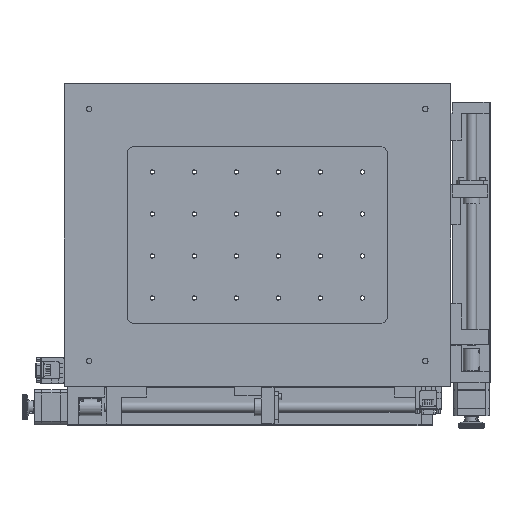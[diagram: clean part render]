
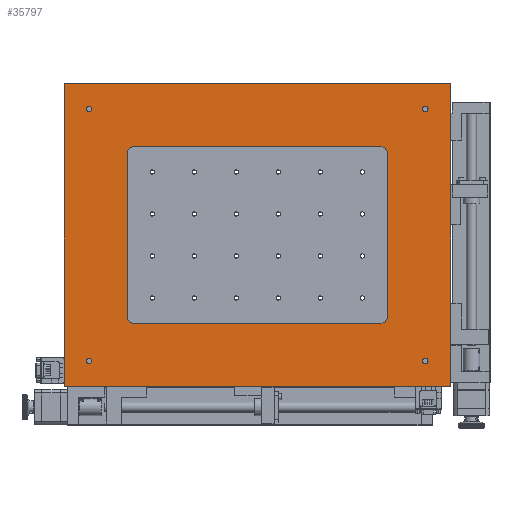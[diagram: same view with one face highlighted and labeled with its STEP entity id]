
A CAD part, front view. The second image highlights one B-rep face of the part: STEP entity #35797.
In plain terms, the highlighted planar face has unit normal (0, -1, 0).
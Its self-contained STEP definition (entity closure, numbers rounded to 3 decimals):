
#331 = VERTEX_POINT ( 'NONE', #23838 ) ;
#337 = VERTEX_POINT ( 'NONE', #23840 ) ;
#342 = VERTEX_POINT ( 'NONE', #23850 ) ;
#345 = VERTEX_POINT ( 'NONE', #23853 ) ;
#351 = VERTEX_POINT ( 'NONE', #23859 ) ;
#358 = VERTEX_POINT ( 'NONE', #23866 ) ;
#364 = VERTEX_POINT ( 'NONE', #23872 ) ;
#365 = VERTEX_POINT ( 'NONE', #23873 ) ;
#366 = VERTEX_POINT ( 'NONE', #23874 ) ;
#367 = VERTEX_POINT ( 'NONE', #23875 ) ;
#368 = VERTEX_POINT ( 'NONE', #23876 ) ;
#371 = VERTEX_POINT ( 'NONE', #23879 ) ;
#663 = AXIS2_PLACEMENT_3D ( 'NONE', #15046, #15047, #15049 ) ;
#672 = AXIS2_PLACEMENT_3D ( 'NONE', #15146, #15148, #15150 ) ;
#1334 = AXIS2_PLACEMENT_3D ( 'NONE', #35894, #35879, #35897 ) ;
#1398 = AXIS2_PLACEMENT_3D ( 'NONE', #36160, #36161, #36162 ) ;
#1400 = AXIS2_PLACEMENT_3D ( 'NONE', #36168, #36169, #36170 ) ;
#1401 = AXIS2_PLACEMENT_3D ( 'NONE', #36172, #36173, #36174 ) ;
#1403 = AXIS2_PLACEMENT_3D ( 'NONE', #36180, #36181, #36182 ) ;
#1405 = AXIS2_PLACEMENT_3D ( 'NONE', #36186, #36187, #36188 ) ;
#1407 = AXIS2_PLACEMENT_3D ( 'NONE', #36193, #36194, #36195 ) ;
#13535 = LINE ( 'NONE', #14958, #13551 ) ;
#13540 = LINE ( 'NONE', #14915, #13543 ) ;
#13543 = VECTOR ( 'NONE', #14917, 1000. ) ;
#13551 = VECTOR ( 'NONE', #14934, 1000. ) ;
#13562 = LINE ( 'NONE', #14982, #13565 ) ;
#13565 = VECTOR ( 'NONE', #14986, 1000. ) ;
#13573 = LINE ( 'NONE', #15013, #13576 ) ;
#13576 = VECTOR ( 'NONE', #15015, 1000. ) ;
#13582 = CIRCLE ( 'NONE', #663, 8. ) ;
#13608 = CIRCLE ( 'NONE', #672, 8. ) ;
#13613 = LINE ( 'NONE', #15157, #13616 ) ;
#13616 = VECTOR ( 'NONE', #15160, 1000. ) ;
#14915 = CARTESIAN_POINT ( 'NONE',  ( -174.203, -27.717, 180. ) ) ;
#14917 = DIRECTION ( 'NONE',  ( 1., 0., 0. ) ) ;
#14934 = DIRECTION ( 'NONE',  ( 0., 0., -1. ) ) ;
#14958 = CARTESIAN_POINT ( 'NONE',  ( 325.797, -27.717, 180. ) ) ;
#14982 = CARTESIAN_POINT ( 'NONE',  ( -134.203, -27.717, -180. ) ) ;
#14986 = DIRECTION ( 'NONE',  ( 0., 0., -1. ) ) ;
#15013 = CARTESIAN_POINT ( 'NONE',  ( -174.203, -27.717, -180. ) ) ;
#15015 = DIRECTION ( 'NONE',  ( 1., 0., 0. ) ) ;
#15046 = CARTESIAN_POINT ( 'NONE',  ( -51.203, -27.717, 97. ) ) ;
#15047 = DIRECTION ( 'NONE',  ( 0., -1., 0. ) ) ;
#15049 = DIRECTION ( 'NONE',  ( 0., 0., 1. ) ) ;
#15146 = CARTESIAN_POINT ( 'NONE',  ( 242.797, -27.717, 97. ) ) ;
#15148 = DIRECTION ( 'NONE',  ( 0., -1., 0. ) ) ;
#15150 = DIRECTION ( 'NONE',  ( 0., 0., 1. ) ) ;
#15157 = CARTESIAN_POINT ( 'NONE',  ( 250.797, -27.717, 97. ) ) ;
#15160 = DIRECTION ( 'NONE',  ( 0., 0., 1. ) ) ;
#23838 = CARTESIAN_POINT ( 'NONE',  ( 325.797, -27.717, -180. ) ) ;
#23840 = CARTESIAN_POINT ( 'NONE',  ( 325.797, -27.717, 180. ) ) ;
#23850 = CARTESIAN_POINT ( 'NONE',  ( -134.203, -27.717, 180. ) ) ;
#23853 = CARTESIAN_POINT ( 'NONE',  ( -59.203, -27.717, 97. ) ) ;
#23859 = CARTESIAN_POINT ( 'NONE',  ( -134.203, -27.717, -180. ) ) ;
#23866 = CARTESIAN_POINT ( 'NONE',  ( -51.203, -27.717, 105. ) ) ;
#23872 = CARTESIAN_POINT ( 'NONE',  ( 242.797, -27.717, 105. ) ) ;
#23873 = CARTESIAN_POINT ( 'NONE',  ( -59.203, -27.717, -97. ) ) ;
#23874 = CARTESIAN_POINT ( 'NONE',  ( 242.797, -27.717, -105. ) ) ;
#23875 = CARTESIAN_POINT ( 'NONE',  ( -51.203, -27.717, -105. ) ) ;
#23876 = CARTESIAN_POINT ( 'NONE',  ( 250.797, -27.717, 97. ) ) ;
#23879 = CARTESIAN_POINT ( 'NONE',  ( 250.797, -27.717, -97. ) ) ;
#25315 = ORIENTED_EDGE ( 'NONE', *, *, #31473, .F. ) ;
#25316 = ORIENTED_EDGE ( 'NONE', *, *, #31499, .T. ) ;
#25317 = ORIENTED_EDGE ( 'NONE', *, *, #31486, .T. ) ;
#25318 = ORIENTED_EDGE ( 'NONE', *, *, #31458, .F. ) ;
#25319 = ORIENTED_EDGE ( 'NONE', *, *, #40595, .F. ) ;
#25320 = ORIENTED_EDGE ( 'NONE', *, *, #40591, .F. ) ;
#25321 = ORIENTED_EDGE ( 'NONE', *, *, #40586, .F. ) ;
#25322 = ORIENTED_EDGE ( 'NONE', *, *, #31553, .F. ) ;
#25323 = ORIENTED_EDGE ( 'NONE', *, *, #31547, .F. ) ;
#25324 = ORIENTED_EDGE ( 'NONE', *, *, #40618, .F. ) ;
#25325 = ORIENTED_EDGE ( 'NONE', *, *, #31512, .F. ) ;
#25326 = ORIENTED_EDGE ( 'NONE', *, *, #40599, .F. ) ;
#25327 = ORIENTED_EDGE ( 'NONE', *, *, #40601, .T. ) ;
#25328 = ORIENTED_EDGE ( 'NONE', *, *, #40606, .T. ) ;
#25329 = ORIENTED_EDGE ( 'NONE', *, *, #40610, .T. ) ;
#25330 = ORIENTED_EDGE ( 'NONE', *, *, #40614, .T. ) ;
#25488 = FACE_BOUND ( 'NONE', #50570, .T. ) ;
#25491 = FACE_BOUND ( 'NONE', #50568, .T. ) ;
#25492 = FACE_BOUND ( 'NONE', #50572, .T. ) ;
#25493 = FACE_BOUND ( 'NONE', #50571, .T. ) ;
#25494 = FACE_BOUND ( 'NONE', #50567, .T. ) ;
#25495 = FACE_OUTER_BOUND ( 'NONE', #50575, .T. ) ;
#25590 = CIRCLE ( 'NONE', #1400, 8. ) ;
#25592 = LINE ( 'NONE', #36157, #25599 ) ;
#25595 = CIRCLE ( 'NONE', #1398, 8. ) ;
#25599 = VECTOR ( 'NONE', #36150, 1000. ) ;
#25602 = LINE ( 'NONE', #36166, #25606 ) ;
#25603 = CIRCLE ( 'NONE', #1401, 3.25 ) ;
#25605 = CIRCLE ( 'NONE', #1405, 3.25 ) ;
#25606 = VECTOR ( 'NONE', #36171, 1000. ) ;
#25609 = CIRCLE ( 'NONE', #1403, 3.25 ) ;
#25611 = CIRCLE ( 'NONE', #1407, 3.25 ) ;
#25614 = VECTOR ( 'NONE', #36200, 1000. ) ;
#25616 = LINE ( 'NONE', #36179, #25614 ) ;
#31458 = EDGE_CURVE ( 'NONE', #342, #337, #13540, .T. ) ;
#31473 = EDGE_CURVE ( 'NONE', #337, #331, #13535, .T. ) ;
#31486 = EDGE_CURVE ( 'NONE', #342, #351, #13562, .T. ) ;
#31499 = EDGE_CURVE ( 'NONE', #351, #331, #13573, .T. ) ;
#31512 = EDGE_CURVE ( 'NONE', #358, #345, #13582, .T. ) ;
#31547 = EDGE_CURVE ( 'NONE', #368, #364, #13608, .T. ) ;
#31553 = EDGE_CURVE ( 'NONE', #371, #368, #13613, .T. ) ;
#35797 = ADVANCED_FACE ( 'NONE', ( #25491, #25494, #25492, #25493, #25488, #25495 ), #35892, .F. ) ;
#35879 = DIRECTION ( 'NONE',  ( 0., 1., 0. ) ) ;
#35892 = PLANE ( 'NONE',  #1334 ) ;
#35894 = CARTESIAN_POINT ( 'NONE',  ( -174.203, -27.717, 180. ) ) ;
#35897 = DIRECTION ( 'NONE',  ( 0., 0., 1. ) ) ;
#36150 = DIRECTION ( 'NONE',  ( 1., 0., 0. ) ) ;
#36157 = CARTESIAN_POINT ( 'NONE',  ( 242.797, -27.717, -105. ) ) ;
#36160 = CARTESIAN_POINT ( 'NONE',  ( 242.797, -27.717, -97. ) ) ;
#36161 = DIRECTION ( 'NONE',  ( 0., -1., 0. ) ) ;
#36162 = DIRECTION ( 'NONE',  ( 0., 0., 1. ) ) ;
#36166 = CARTESIAN_POINT ( 'NONE',  ( -59.203, -27.717, 97. ) ) ;
#36168 = CARTESIAN_POINT ( 'NONE',  ( -51.203, -27.717, -97. ) ) ;
#36169 = DIRECTION ( 'NONE',  ( 0., -1., 0. ) ) ;
#36170 = DIRECTION ( 'NONE',  ( 0., 0., 1. ) ) ;
#36171 = DIRECTION ( 'NONE',  ( 0., 0., -1. ) ) ;
#36172 = CARTESIAN_POINT ( 'NONE',  ( -104.203, -27.717, 150. ) ) ;
#36173 = DIRECTION ( 'NONE',  ( 0., 1., 0. ) ) ;
#36174 = DIRECTION ( 'NONE',  ( 0., 0., 1. ) ) ;
#36179 = CARTESIAN_POINT ( 'NONE',  ( 242.797, -27.717, 105. ) ) ;
#36180 = CARTESIAN_POINT ( 'NONE',  ( 295.797, -27.717, 150. ) ) ;
#36181 = DIRECTION ( 'NONE',  ( 0., 1., 0. ) ) ;
#36182 = DIRECTION ( 'NONE',  ( 0., 0., 1. ) ) ;
#36186 = CARTESIAN_POINT ( 'NONE',  ( 295.797, -27.717, -150. ) ) ;
#36187 = DIRECTION ( 'NONE',  ( 0., 1., 0. ) ) ;
#36188 = DIRECTION ( 'NONE',  ( 0., 0., 1. ) ) ;
#36193 = CARTESIAN_POINT ( 'NONE',  ( -104.203, -27.717, -150. ) ) ;
#36194 = DIRECTION ( 'NONE',  ( 0., 1., 0. ) ) ;
#36195 = DIRECTION ( 'NONE',  ( 0., 0., 1. ) ) ;
#36200 = DIRECTION ( 'NONE',  ( -1., 0., 0. ) ) ;
#36853 = CARTESIAN_POINT ( 'NONE',  ( -104.203, -27.717, 153.25 ) ) ;
#36855 = CARTESIAN_POINT ( 'NONE',  ( 295.797, -27.717, 153.25 ) ) ;
#36857 = CARTESIAN_POINT ( 'NONE',  ( 295.797, -27.717, -146.75 ) ) ;
#36859 = CARTESIAN_POINT ( 'NONE',  ( -104.203, -27.717, -146.75 ) ) ;
#40080 = VERTEX_POINT ( 'NONE', #36853 ) ;
#40082 = VERTEX_POINT ( 'NONE', #36855 ) ;
#40084 = VERTEX_POINT ( 'NONE', #36857 ) ;
#40086 = VERTEX_POINT ( 'NONE', #36859 ) ;
#40586 = EDGE_CURVE ( 'NONE', #366, #371, #25595, .T. ) ;
#40591 = EDGE_CURVE ( 'NONE', #367, #366, #25592, .T. ) ;
#40595 = EDGE_CURVE ( 'NONE', #365, #367, #25590, .T. ) ;
#40599 = EDGE_CURVE ( 'NONE', #345, #365, #25602, .T. ) ;
#40601 = EDGE_CURVE ( 'NONE', #40080, #40080, #25603, .T. ) ;
#40606 = EDGE_CURVE ( 'NONE', #40082, #40082, #25609, .T. ) ;
#40610 = EDGE_CURVE ( 'NONE', #40084, #40084, #25605, .T. ) ;
#40614 = EDGE_CURVE ( 'NONE', #40086, #40086, #25611, .T. ) ;
#40618 = EDGE_CURVE ( 'NONE', #364, #358, #25616, .T. ) ;
#50567 = EDGE_LOOP ( 'NONE', ( #25329 ) ) ;
#50568 = EDGE_LOOP ( 'NONE', ( #25330 ) ) ;
#50570 = EDGE_LOOP ( 'NONE', ( #25326, #25325, #25324, #25323, #25322, #25321, #25320, #25319 ) ) ;
#50571 = EDGE_LOOP ( 'NONE', ( #25327 ) ) ;
#50572 = EDGE_LOOP ( 'NONE', ( #25328 ) ) ;
#50575 = EDGE_LOOP ( 'NONE', ( #25318, #25317, #25316, #25315 ) ) ;
